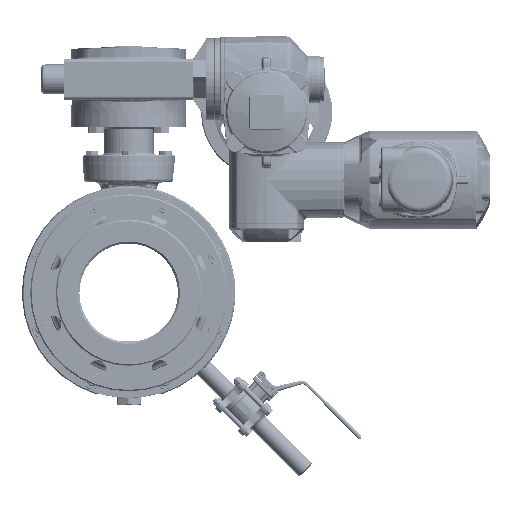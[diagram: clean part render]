
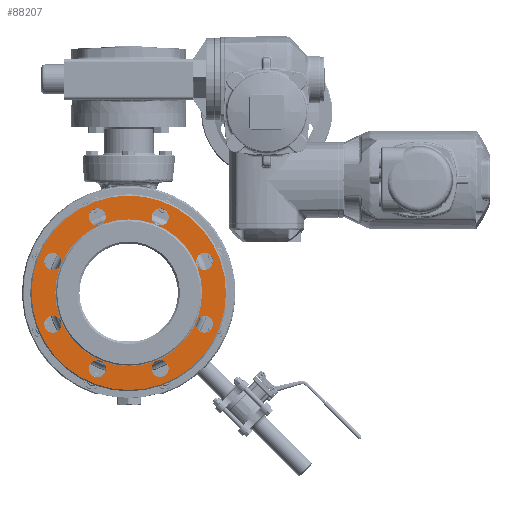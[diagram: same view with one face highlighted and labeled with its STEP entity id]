
A CAD part, left-side view. The second image highlights one B-rep face of the part: STEP entity #88207.
In plain terms, the highlighted planar face has unit normal (-1, 0, 0).
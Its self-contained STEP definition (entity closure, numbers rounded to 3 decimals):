
#19252=CARTESIAN_POINT('',(-195.,0.,0.));
#19253=DIRECTION('',(1.,0.,0.));
#19254=DIRECTION('',(0.,0.,-1.));
#19255=AXIS2_PLACEMENT_3D('',#19252,#19253,#19254);
#19257=CARTESIAN_POINT('',(-195.,0.,0.));
#19258=DIRECTION('',(1.,0.,0.));
#19259=DIRECTION('',(0.,0.,1.));
#19260=AXIS2_PLACEMENT_3D('',#19257,#19258,#19259);
#19262=CARTESIAN_POINT('',(-195.,0.,0.));
#19263=DIRECTION('',(1.,0.,0.));
#19264=DIRECTION('',(0.,0.,1.));
#19265=AXIS2_PLACEMENT_3D('',#19262,#19263,#19264);
#19267=CARTESIAN_POINT('',(-195.,0.,0.));
#19268=DIRECTION('',(1.,0.,0.));
#19269=DIRECTION('',(0.,0.,-1.));
#19270=AXIS2_PLACEMENT_3D('',#19267,#19268,#19269);
#19272=CARTESIAN_POINT('',(-195.,47.835,115.485));
#19273=DIRECTION('',(1.,0.,0.));
#19274=DIRECTION('',(0.,1.,0.));
#19275=AXIS2_PLACEMENT_3D('',#19272,#19273,#19274);
#19277=CARTESIAN_POINT('',(-195.,47.835,115.485));
#19278=DIRECTION('',(1.,0.,0.));
#19279=DIRECTION('',(0.,-1.,0.));
#19280=AXIS2_PLACEMENT_3D('',#19277,#19278,#19279);
#19282=CARTESIAN_POINT('',(-195.,115.485,47.835));
#19283=DIRECTION('',(1.,0.,0.));
#19284=DIRECTION('',(0.,1.,0.));
#19285=AXIS2_PLACEMENT_3D('',#19282,#19283,#19284);
#19287=CARTESIAN_POINT('',(-195.,115.485,47.835));
#19288=DIRECTION('',(1.,0.,0.));
#19289=DIRECTION('',(0.,-1.,0.));
#19290=AXIS2_PLACEMENT_3D('',#19287,#19288,#19289);
#19292=CARTESIAN_POINT('',(-195.,115.485,-47.835));
#19293=DIRECTION('',(1.,0.,0.));
#19294=DIRECTION('',(0.,1.,0.));
#19295=AXIS2_PLACEMENT_3D('',#19292,#19293,#19294);
#19297=CARTESIAN_POINT('',(-195.,115.485,-47.835));
#19298=DIRECTION('',(1.,0.,0.));
#19299=DIRECTION('',(0.,-1.,0.));
#19300=AXIS2_PLACEMENT_3D('',#19297,#19298,#19299);
#19302=CARTESIAN_POINT('',(-195.,47.835,-115.485));
#19303=DIRECTION('',(1.,0.,0.));
#19304=DIRECTION('',(0.,1.,0.));
#19305=AXIS2_PLACEMENT_3D('',#19302,#19303,#19304);
#19307=CARTESIAN_POINT('',(-195.,47.835,-115.485));
#19308=DIRECTION('',(1.,0.,0.));
#19309=DIRECTION('',(0.,-1.,0.));
#19310=AXIS2_PLACEMENT_3D('',#19307,#19308,#19309);
#19312=CARTESIAN_POINT('',(-195.,-47.835,-115.485));
#19313=DIRECTION('',(1.,0.,0.));
#19314=DIRECTION('',(0.,1.,0.));
#19315=AXIS2_PLACEMENT_3D('',#19312,#19313,#19314);
#19317=CARTESIAN_POINT('',(-195.,-47.835,-115.485));
#19318=DIRECTION('',(1.,0.,0.));
#19319=DIRECTION('',(0.,-1.,0.));
#19320=AXIS2_PLACEMENT_3D('',#19317,#19318,#19319);
#19322=CARTESIAN_POINT('',(-195.,-115.485,-47.835));
#19323=DIRECTION('',(1.,0.,0.));
#19324=DIRECTION('',(0.,1.,0.));
#19325=AXIS2_PLACEMENT_3D('',#19322,#19323,#19324);
#19327=CARTESIAN_POINT('',(-195.,-115.485,-47.835));
#19328=DIRECTION('',(1.,0.,0.));
#19329=DIRECTION('',(0.,-1.,0.));
#19330=AXIS2_PLACEMENT_3D('',#19327,#19328,#19329);
#19332=CARTESIAN_POINT('',(-195.,-115.485,47.835));
#19333=DIRECTION('',(1.,0.,0.));
#19334=DIRECTION('',(0.,1.,0.));
#19335=AXIS2_PLACEMENT_3D('',#19332,#19333,#19334);
#19337=CARTESIAN_POINT('',(-195.,-115.485,47.835));
#19338=DIRECTION('',(1.,0.,0.));
#19339=DIRECTION('',(0.,-1.,0.));
#19340=AXIS2_PLACEMENT_3D('',#19337,#19338,#19339);
#19342=CARTESIAN_POINT('',(-195.,-47.835,115.485));
#19343=DIRECTION('',(1.,0.,0.));
#19344=DIRECTION('',(0.,1.,0.));
#19345=AXIS2_PLACEMENT_3D('',#19342,#19343,#19344);
#19347=CARTESIAN_POINT('',(-195.,-47.835,115.485));
#19348=DIRECTION('',(1.,0.,0.));
#19349=DIRECTION('',(0.,-1.,0.));
#19350=AXIS2_PLACEMENT_3D('',#19347,#19348,#19349);
#33683=CARTESIAN_POINT('',(-195.,60.835,115.485));
#33684=VERTEX_POINT('',#33683);
#33685=CARTESIAN_POINT('',(-195.,34.835,115.485));
#33686=VERTEX_POINT('',#33685);
#33691=CARTESIAN_POINT('',(-195.,128.485,47.835));
#33692=VERTEX_POINT('',#33691);
#33693=CARTESIAN_POINT('',(-195.,102.485,47.835));
#33694=VERTEX_POINT('',#33693);
#33699=CARTESIAN_POINT('',(-195.,128.485,-47.835));
#33700=VERTEX_POINT('',#33699);
#33701=CARTESIAN_POINT('',(-195.,102.485,-47.835));
#33702=VERTEX_POINT('',#33701);
#33707=CARTESIAN_POINT('',(-195.,60.835,-115.485));
#33708=VERTEX_POINT('',#33707);
#33709=CARTESIAN_POINT('',(-195.,34.835,-115.485));
#33710=VERTEX_POINT('',#33709);
#33715=CARTESIAN_POINT('',(-195.,-34.835,-115.485));
#33716=VERTEX_POINT('',#33715);
#33717=CARTESIAN_POINT('',(-195.,-60.835,-115.485));
#33718=VERTEX_POINT('',#33717);
#33723=CARTESIAN_POINT('',(-195.,-102.485,-47.835));
#33724=VERTEX_POINT('',#33723);
#33725=CARTESIAN_POINT('',(-195.,-128.485,-47.835));
#33726=VERTEX_POINT('',#33725);
#33731=CARTESIAN_POINT('',(-195.,-102.485,47.835));
#33732=VERTEX_POINT('',#33731);
#33733=CARTESIAN_POINT('',(-195.,-128.485,47.835));
#33734=VERTEX_POINT('',#33733);
#33739=CARTESIAN_POINT('',(-195.,-34.835,115.485));
#33740=VERTEX_POINT('',#33739);
#33741=CARTESIAN_POINT('',(-195.,-60.835,115.485));
#33742=VERTEX_POINT('',#33741);
#33773=CARTESIAN_POINT('',(-195.,0.,-148.));
#33774=CARTESIAN_POINT('',(-195.,0.,148.));
#33775=VERTEX_POINT('',#33773);
#33776=VERTEX_POINT('',#33774);
#33781=CARTESIAN_POINT('',(-195.,0.,111.663));
#33782=CARTESIAN_POINT('',(-195.,0.,-111.663));
#33783=VERTEX_POINT('',#33781);
#33784=VERTEX_POINT('',#33782);
#88144=CARTESIAN_POINT('',(-195.,0.,0.));
#88145=DIRECTION('',(-1.,0.,0.));
#88146=DIRECTION('',(0.,0.,-1.));
#88147=AXIS2_PLACEMENT_3D('',#88144,#88145,#88146);
#88148=PLANE('',#88147);
#88150=ORIENTED_EDGE('',*,*,#88149,.T.);
#88152=ORIENTED_EDGE('',*,*,#88151,.T.);
#88153=EDGE_LOOP('',(#88150,#88152));
#88154=FACE_OUTER_BOUND('',#88153,.F.);
#88155=ORIENTED_EDGE('',*,*,#88126,.F.);
#88156=ORIENTED_EDGE('',*,*,#88111,.F.);
#88157=EDGE_LOOP('',(#88155,#88156));
#88158=FACE_BOUND('',#88157,.F.);
#88160=ORIENTED_EDGE('',*,*,#88159,.F.);
#88162=ORIENTED_EDGE('',*,*,#88161,.F.);
#88163=EDGE_LOOP('',(#88160,#88162));
#88164=FACE_BOUND('',#88163,.F.);
#88166=ORIENTED_EDGE('',*,*,#88165,.F.);
#88168=ORIENTED_EDGE('',*,*,#88167,.F.);
#88169=EDGE_LOOP('',(#88166,#88168));
#88170=FACE_BOUND('',#88169,.F.);
#88172=ORIENTED_EDGE('',*,*,#88171,.F.);
#88174=ORIENTED_EDGE('',*,*,#88173,.F.);
#88175=EDGE_LOOP('',(#88172,#88174));
#88176=FACE_BOUND('',#88175,.F.);
#88178=ORIENTED_EDGE('',*,*,#88177,.F.);
#88180=ORIENTED_EDGE('',*,*,#88179,.F.);
#88181=EDGE_LOOP('',(#88178,#88180));
#88182=FACE_BOUND('',#88181,.F.);
#88184=ORIENTED_EDGE('',*,*,#88183,.F.);
#88186=ORIENTED_EDGE('',*,*,#88185,.F.);
#88187=EDGE_LOOP('',(#88184,#88186));
#88188=FACE_BOUND('',#88187,.F.);
#88190=ORIENTED_EDGE('',*,*,#88189,.F.);
#88192=ORIENTED_EDGE('',*,*,#88191,.F.);
#88193=EDGE_LOOP('',(#88190,#88192));
#88194=FACE_BOUND('',#88193,.F.);
#88196=ORIENTED_EDGE('',*,*,#88195,.F.);
#88198=ORIENTED_EDGE('',*,*,#88197,.F.);
#88199=EDGE_LOOP('',(#88196,#88198));
#88200=FACE_BOUND('',#88199,.F.);
#88202=ORIENTED_EDGE('',*,*,#88201,.F.);
#88204=ORIENTED_EDGE('',*,*,#88203,.F.);
#88205=EDGE_LOOP('',(#88202,#88204));
#88206=FACE_BOUND('',#88205,.F.);
#88207=ADVANCED_FACE('',(#88154,#88158,#88164,#88170,#88176,#88182,#88188,
#88194,#88200,#88206),#88148,.T.);
#19256=CIRCLE('',#19255,148.);
#19261=CIRCLE('',#19260,148.);
#19266=CIRCLE('',#19265,111.663);
#19271=CIRCLE('',#19270,111.663);
#19276=CIRCLE('',#19275,13.);
#19281=CIRCLE('',#19280,13.);
#19286=CIRCLE('',#19285,13.);
#19291=CIRCLE('',#19290,13.);
#19296=CIRCLE('',#19295,13.);
#19301=CIRCLE('',#19300,13.);
#19306=CIRCLE('',#19305,13.);
#19311=CIRCLE('',#19310,13.);
#19316=CIRCLE('',#19315,13.);
#19321=CIRCLE('',#19320,13.);
#19326=CIRCLE('',#19325,13.);
#19331=CIRCLE('',#19330,13.);
#19336=CIRCLE('',#19335,13.);
#19341=CIRCLE('',#19340,13.);
#19346=CIRCLE('',#19345,13.);
#19351=CIRCLE('',#19350,13.);
#88111=EDGE_CURVE('',#33784,#33783,#19271,.T.);
#88126=EDGE_CURVE('',#33783,#33784,#19266,.T.);
#88149=EDGE_CURVE('',#33775,#33776,#19256,.T.);
#88151=EDGE_CURVE('',#33776,#33775,#19261,.T.);
#88159=EDGE_CURVE('',#33684,#33686,#19276,.T.);
#88161=EDGE_CURVE('',#33686,#33684,#19281,.T.);
#88165=EDGE_CURVE('',#33692,#33694,#19286,.T.);
#88167=EDGE_CURVE('',#33694,#33692,#19291,.T.);
#88171=EDGE_CURVE('',#33700,#33702,#19296,.T.);
#88173=EDGE_CURVE('',#33702,#33700,#19301,.T.);
#88177=EDGE_CURVE('',#33708,#33710,#19306,.T.);
#88179=EDGE_CURVE('',#33710,#33708,#19311,.T.);
#88183=EDGE_CURVE('',#33716,#33718,#19316,.T.);
#88185=EDGE_CURVE('',#33718,#33716,#19321,.T.);
#88189=EDGE_CURVE('',#33724,#33726,#19326,.T.);
#88191=EDGE_CURVE('',#33726,#33724,#19331,.T.);
#88195=EDGE_CURVE('',#33732,#33734,#19336,.T.);
#88197=EDGE_CURVE('',#33734,#33732,#19341,.T.);
#88201=EDGE_CURVE('',#33740,#33742,#19346,.T.);
#88203=EDGE_CURVE('',#33742,#33740,#19351,.T.);
